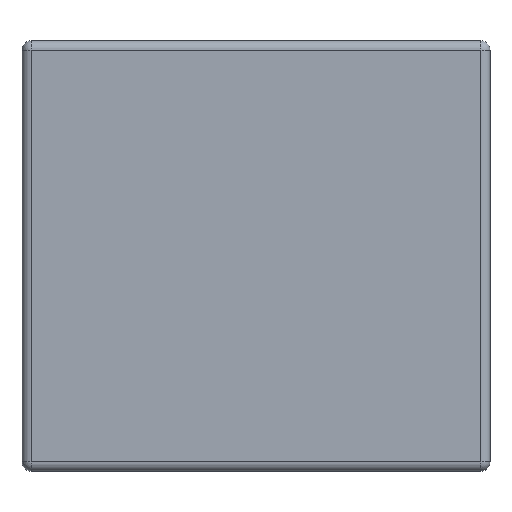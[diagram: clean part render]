
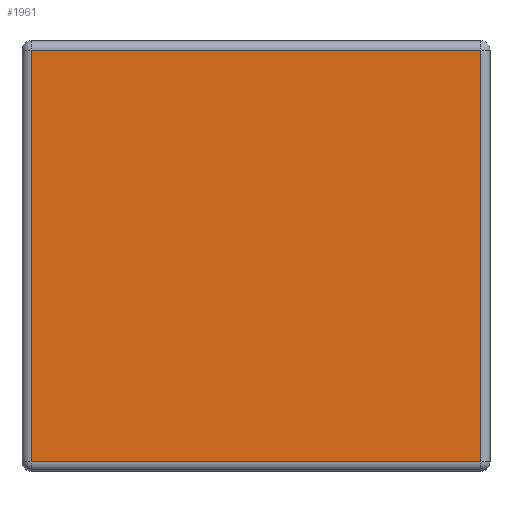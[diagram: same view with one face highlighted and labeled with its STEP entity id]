
A CAD part, front view. The second image highlights one B-rep face of the part: STEP entity #1961.
In plain terms, the highlighted planar face has unit normal (0, -1, 0).
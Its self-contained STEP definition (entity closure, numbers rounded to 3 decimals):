
#114=DIRECTION('',(0.,0.,1.));
#115=VECTOR('',#114,22.);
#116=CARTESIAN_POINT('',(-12.,0.,-11.));
#117=LINE('',#116,#115);
#902=DIRECTION('',(0.,0.,-1.));
#903=VECTOR('',#902,22.);
#904=CARTESIAN_POINT('',(12.,0.,11.));
#905=LINE('',#904,#903);
#940=DIRECTION('',(-1.,0.,0.));
#941=VECTOR('',#940,24.);
#942=CARTESIAN_POINT('',(12.,0.,-11.));
#943=LINE('',#942,#941);
#961=DIRECTION('',(1.,0.,0.));
#962=VECTOR('',#961,24.);
#963=CARTESIAN_POINT('',(-12.,0.,11.));
#964=LINE('',#963,#962);
#1074=CARTESIAN_POINT('',(12.,0.,11.));
#1075=CARTESIAN_POINT('',(12.,0.,-11.));
#1076=VERTEX_POINT('',#1074);
#1077=VERTEX_POINT('',#1075);
#1078=CARTESIAN_POINT('',(-12.,0.,11.));
#1079=VERTEX_POINT('',#1078);
#1080=CARTESIAN_POINT('',(-12.,0.,-11.));
#1081=VERTEX_POINT('',#1080);
#1949=CARTESIAN_POINT('',(0.,0.,0.));
#1950=DIRECTION('',(0.,1.,0.));
#1951=DIRECTION('',(0.,0.,1.));
#1952=AXIS2_PLACEMENT_3D('',#1949,#1950,#1951);
#1953=PLANE('',#1952);
#1954=ORIENTED_EDGE('',*,*,#1916,.T.);
#1955=ORIENTED_EDGE('',*,*,#1942,.T.);
#1956=ORIENTED_EDGE('',*,*,#1233,.T.);
#1958=ORIENTED_EDGE('',*,*,#1957,.T.);
#1959=EDGE_LOOP('',(#1954,#1955,#1956,#1958));
#1960=FACE_OUTER_BOUND('',#1959,.F.);
#1961=ADVANCED_FACE('',(#1960),#1953,.F.);
#1233=EDGE_CURVE('',#1081,#1079,#117,.T.);
#1916=EDGE_CURVE('',#1076,#1077,#905,.T.);
#1942=EDGE_CURVE('',#1077,#1081,#943,.T.);
#1957=EDGE_CURVE('',#1079,#1076,#964,.T.);
